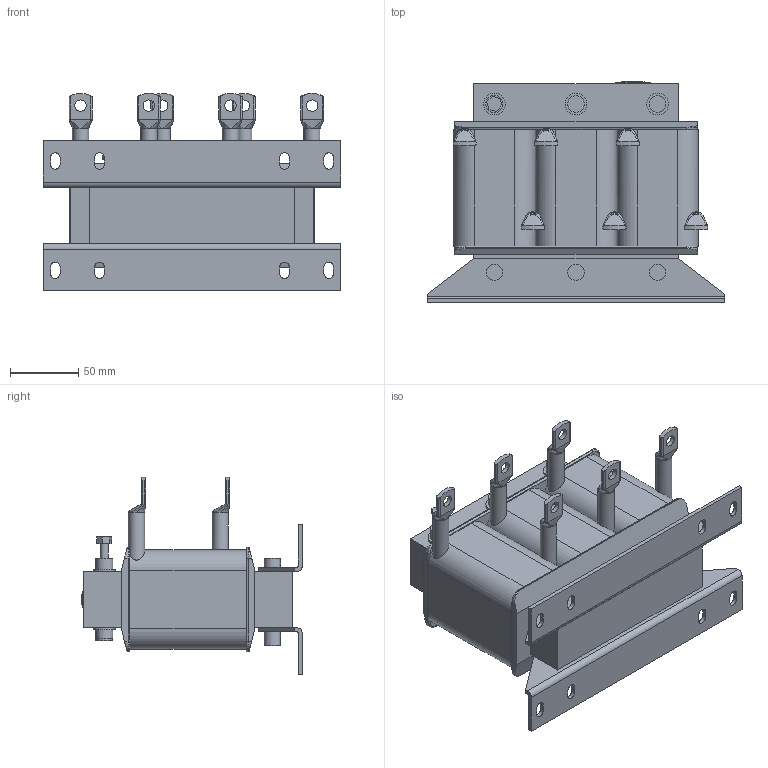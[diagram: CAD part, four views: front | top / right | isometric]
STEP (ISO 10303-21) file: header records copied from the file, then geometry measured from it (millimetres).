
FILE_DESCRIPTION (( 'STEP AP214' ), '1' );
FILE_NAME ('17Z1B03-1000.STEP', '2022-04-12T12:04:49', ( '' ), ( '' ), 'SwSTEP 2.0', 'SolidWorks 2019', '' );
FILE_SCHEMA (( 'AUTOMOTIVE_DESIGN' ));
Length unit declared in the file: millimetre
Products named in the file (1): 17Z1B03-1000
Bounding box: 219 x 162.22 x 145 mm (x, y, z)
Volume: 1679408.4 mm3; surface area: 172379.3 mm2
Topology: 1 solids, 1 shells, 386 faces, 1012 edges, 648 vertices
Faces by surface type: plane 173, cylinder 126, bspline 79, torus 8
Full cylindrical faces by diameter (mm): 6 x1, 8.4 x6, 12 x16, 12.6 x2, 16 x6
Entity records: 17468 total; most frequent: CARTESIAN_POINT 8583, ORIENTED_EDGE 1938, DIRECTION 1457, EDGE_CURVE 969, VERTEX_POINT 636, AXIS2_PLACEMENT_3D 512, EDGE_LOOP 473, VECTOR 433
